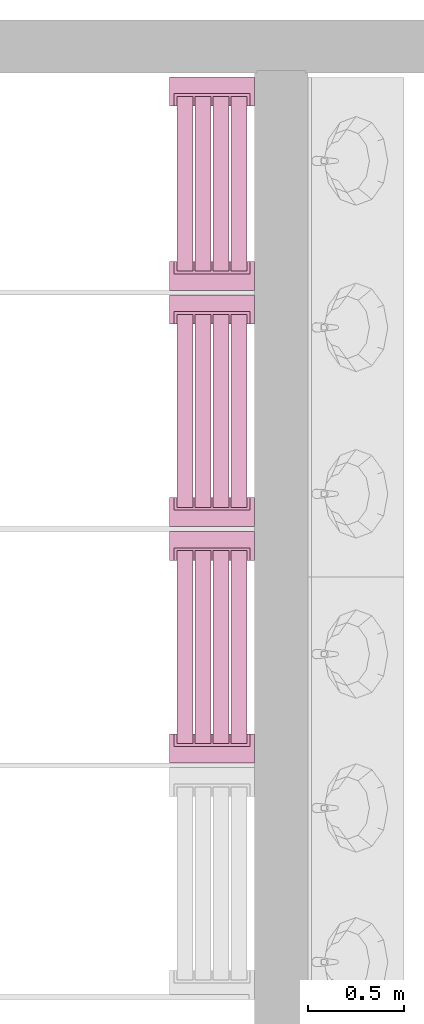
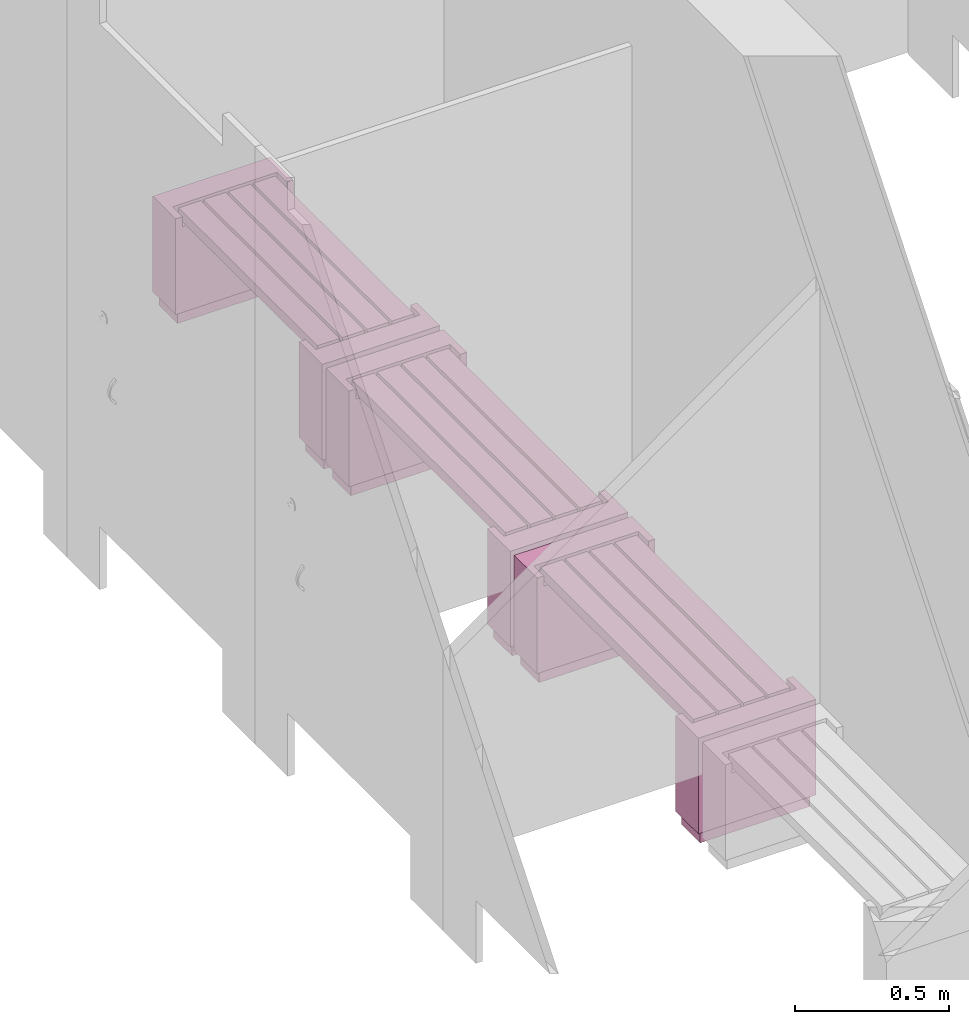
# One storey, part 20 of 22: 3 furnishings.
"""IFC2X3 building model written with IfcOpenShell, lengths in millimetres."""

from ifc_helpers import new_model, entity, si_unit, converted_unit, derived_unit, direction, frame, frame_2d, origin, origin_2d_with_axis, place, context, subcontext, project, spatial, polyline, rectangle, outline, extrude, source, transform, mapped, material, material_list, type_object, type_shapes, element, save


model = new_model("IFC2X3")

# Units and contexts
model_context = context("Model", 3, precision=0.01, world=origin(), true_north=direction((6.12303176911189e-17, 1.0)))
body_context = subcontext(model_context, "Body", "Model", "MODEL_VIEW")
ifc_project = project(units=[si_unit("LENGTHUNIT", "METRE", prefix="MILLI"), si_unit("AREAUNIT", "SQUARE_METRE"), si_unit("VOLUMEUNIT", "CUBIC_METRE"), converted_unit("PLANEANGLEUNIT", "DEGREE", entity("IfcRatioMeasure", 0.0174532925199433), si_unit("PLANEANGLEUNIT", "RADIAN"), dimensions=[0, 0, 0, 0, 0, 0, 0]), si_unit("MASSUNIT", "GRAM", prefix="KILO"), derived_unit("MASSDENSITYUNIT", [(si_unit("MASSUNIT", "GRAM", prefix="KILO"), 1), (si_unit("LENGTHUNIT", "METRE"), -3)]), si_unit("TIMEUNIT", "SECOND"), si_unit("FREQUENCYUNIT", "HERTZ"), si_unit("THERMODYNAMICTEMPERATUREUNIT", "DEGREE_CELSIUS"), derived_unit("THERMALTRANSMITTANCEUNIT", [(si_unit("MASSUNIT", "GRAM", prefix="KILO"), 1), (si_unit("THERMODYNAMICTEMPERATUREUNIT", "KELVIN"), -1), (si_unit("TIMEUNIT", "SECOND"), -3)]), derived_unit("VOLUMETRICFLOWRATEUNIT", [(si_unit("LENGTHUNIT", "METRE"), 3), (si_unit("TIMEUNIT", "SECOND"), -1)]), si_unit("ELECTRICCURRENTUNIT", "AMPERE"), si_unit("ELECTRICVOLTAGEUNIT", "VOLT"), si_unit("POWERUNIT", "WATT"), si_unit("FORCEUNIT", "NEWTON", prefix="KILO"), si_unit("ILLUMINANCEUNIT", "LUX"), si_unit("LUMINOUSFLUXUNIT", "LUMEN"), si_unit("LUMINOUSINTENSITYUNIT", "CANDELA"), derived_unit("USERDEFINED", [(si_unit("MASSUNIT", "GRAM", prefix="KILO"), -1), (si_unit("LENGTHUNIT", "METRE"), -2), (si_unit("TIMEUNIT", "SECOND"), 3), (si_unit("LUMINOUSFLUXUNIT", "LUMEN"), 1)]), derived_unit("LINEARVELOCITYUNIT", [(si_unit("LENGTHUNIT", "METRE"), 1), (si_unit("TIMEUNIT", "SECOND"), -1)]), si_unit("PRESSUREUNIT", "PASCAL"), derived_unit("USERDEFINED", [(si_unit("LENGTHUNIT", "METRE"), -2), (si_unit("MASSUNIT", "GRAM", prefix="KILO"), 1), (si_unit("TIMEUNIT", "SECOND"), -2)])], contexts=[model_context])

# Site, building, storey
site_placement = place(None, origin())
site = spatial("IfcSite", under=ifc_project, at=site_placement, Name="Default", CompositionType="ELEMENT")
building_placement = place(site_placement, origin())
building = spatial("IfcBuilding", under=site, at=building_placement, CompositionType="ELEMENT")
storey_placement = place(building_placement, frame((0.0, 0.0, -3000.0)))
storey = spatial("IfcBuildingStorey", under=building, at=storey_placement, Name="-2. Story", CompositionType="ELEMENT", Elevation=-3000.0)

# Furnishings
ifc_material_1 = material(Name="Wood - Pine Grained Horizontal")
ifc_material_2 = material(Name="Paint - Titanium White")
ifc_material_list_1 = material_list([ifc_material_1, ifc_material_2])
ifc_material_list_2 = material_list([ifc_material_1, ifc_material_2])
furniture_type_1 = type_object("IfcFurnitureType", Name="FU - 011", material=ifc_material_list_2)
shared_shape_1 = source(origin(), body_context, "Body", "SweptSolid", [
    extrude(rectangle(XDim=83.1575481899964, YDim=999.999999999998, at=frame_2d((-8.66506866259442e-12, -8.66862137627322e-12), x_axis=(1.0, 0.0))), frame((111329.651806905, 88753.9483369, -2510.0), z_axis=(0.0, 0.0, 1.0), x_axis=(-1.0, 0.0, 0.0)), (0.0, 0.0, 1.0), 40.0000000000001),
    extrude(rectangle(XDim=83.1575481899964, YDim=999.999999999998, at=frame_2d((8.66506866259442e-12, -8.66862137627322e-12), x_axis=(1.0, 0.0))), frame((111236.494258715, 88753.9483369, -2510.0), z_axis=(0.0, 0.0, 1.0), x_axis=(-1.0, 0.0, 0.0)), (0.0, 0.0, 1.0), 40.0000000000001),
    extrude(rectangle(XDim=83.1575481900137, YDim=999.999999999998, at=frame_2d((0.0, -8.66862137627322e-12), x_axis=(1.0, 0.0))), frame((111143.336710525, 88753.9483369, -2510.0), z_axis=(0.0, 0.0, 1.0), x_axis=(-1.0, 0.0, 0.0)), (0.0, 0.0, 1.0), 40.0000000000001),
    extrude(rectangle(XDim=83.1575481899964, YDim=999.999999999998, at=frame_2d((-8.66506866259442e-12, -8.66862137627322e-12), x_axis=(1.0, 0.0))), frame((111050.179162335, 88753.9483369, -2510.0), z_axis=(0.0, 0.0, 1.0), x_axis=(-1.0, 0.0, 0.0)), (0.0, 0.0, 1.0), 40.0000000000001),
    extrude(outline(polyline([(-53.7500000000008, -221.315096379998), (96.2499999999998, -221.315096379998), (96.2499999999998, 221.315096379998), (-53.7500000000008, 221.315096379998), (-53.7500000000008, 196.315096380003), (11.2499999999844, 196.315096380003), (11.2499999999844, -196.315096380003), (-53.7500000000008, -196.315096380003), (-53.7500000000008, -221.315096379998)])), frame((111189.91548462, 88250.1983369, -2510.0), z_axis=(0.0, 0.0, 1.0), x_axis=(0.0, -1.0, 0.0)), (0.0, 0.0, 1.0), 40.0000000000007),
    extrude(rectangle(XDim=150.000000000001, YDim=442.630192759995, at=origin_2d_with_axis()), frame((111189.91548462, 88228.9483369, -2850.0), z_axis=(0.0, 0.0, 1.0), x_axis=(0.0, -1.0, 0.0)), (0.0, 0.0, 1.0), 340.0),
    extrude(rectangle(XDim=119.99999999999, YDim=412.630192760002, at=frame_2d((-8.66506866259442e-12, 0.0), x_axis=(1.0, 0.0))), frame((111189.91548462, 88228.9483369, -2900.0), z_axis=(0.0, 0.0, 1.0), x_axis=(0.0, -1.0, 0.0)), (0.0, 0.0, 1.0), 50.0),
    extrude(outline(polyline([(-221.315096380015, -96.2500000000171), (221.31509637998, -96.2500000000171), (221.31509637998, 53.7499999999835), (196.315096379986, 53.7499999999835), (196.315096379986, -11.2500000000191), (-196.315096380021, -11.2500000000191), (-196.315096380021, 53.7499999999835), (-221.315096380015, 53.7499999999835), (-221.315096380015, -96.2500000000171)])), frame((111189.91548462, 89257.6983369, -2510.0), z_axis=(0.0, 0.0, 1.0), x_axis=(-1.0, 0.0, 0.0)), (0.0, 0.0, 1.0), 40.0000000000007),
    extrude(rectangle(XDim=442.630192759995, YDim=150.000000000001, at=origin_2d_with_axis()), frame((111189.91548462, 89278.9483369, -2850.0), z_axis=(0.0, 0.0, 1.0), x_axis=(-1.0, 0.0, 0.0)), (0.0, 0.0, 1.0), 340.0),
    extrude(rectangle(XDim=412.630192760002, YDim=120.000000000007, at=origin_2d_with_axis()), frame((111189.91548462, 89278.9483369, -2900.0), z_axis=(0.0, 0.0, 1.0), x_axis=(-1.0, 0.0, 0.0)), (0.0, 0.0, 1.0), 50.0),
])
type_shapes(furniture_type_1, [shared_shape_1])
furnishing_1_placement = place(storey_placement, frame((0.0, 0.0, 3000.0)))
element("IfcFurnishingElement", 1, at=furnishing_1_placement, inside=storey, type_object=furniture_type_1, material=ifc_material_list_1, Name="FU - 011 1604114:FU - 011 1604114", ObjectType="FU - 011 1604114:FU - 011 1604114", context=body_context, shape_type="MappedRepresentation", body=[
    mapped(shared_shape_1, transform((0.0, 0.0, 0.0), scale=1.0)),
])
ifc_material_list_3 = material_list([ifc_material_1, ifc_material_2])
ifc_material_list_4 = material_list([ifc_material_1, ifc_material_2])
furniture_type_2 = type_object("IfcFurnitureType", Name="FU - 011", material=ifc_material_list_4)
shared_shape_2 = source(origin(), body_context, "Body", "SweptSolid", [
    extrude(rectangle(XDim=83.1575481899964, YDim=999.999999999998, at=frame_2d((-8.66506866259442e-12, -8.66862137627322e-12), x_axis=(1.0, 0.0))), frame((111329.651806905, 87528.9483369, -2510.0), z_axis=(0.0, 0.0, 1.0), x_axis=(-1.0, 0.0, 0.0)), (0.0, 0.0, 1.0), 40.0000000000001),
    extrude(rectangle(XDim=83.1575481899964, YDim=999.999999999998, at=frame_2d((8.66506866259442e-12, -8.66862137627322e-12), x_axis=(1.0, 0.0))), frame((111236.494258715, 87528.9483369, -2510.0), z_axis=(0.0, 0.0, 1.0), x_axis=(-1.0, 0.0, 0.0)), (0.0, 0.0, 1.0), 40.0000000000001),
    extrude(rectangle(XDim=83.1575481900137, YDim=999.999999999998, at=frame_2d((0.0, -8.66862137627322e-12), x_axis=(1.0, 0.0))), frame((111143.336710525, 87528.9483369, -2510.0), z_axis=(0.0, 0.0, 1.0), x_axis=(-1.0, 0.0, 0.0)), (0.0, 0.0, 1.0), 40.0000000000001),
    extrude(rectangle(XDim=83.1575481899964, YDim=999.999999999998, at=frame_2d((-8.66506866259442e-12, -8.66862137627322e-12), x_axis=(1.0, 0.0))), frame((111050.179162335, 87528.9483369, -2510.0), z_axis=(0.0, 0.0, 1.0), x_axis=(-1.0, 0.0, 0.0)), (0.0, 0.0, 1.0), 40.0000000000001),
    extrude(outline(polyline([(-53.7500000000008, -221.315096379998), (96.2499999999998, -221.315096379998), (96.2499999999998, 221.315096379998), (-53.7500000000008, 221.315096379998), (-53.7500000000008, 196.315096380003), (11.2499999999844, 196.315096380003), (11.2499999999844, -196.315096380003), (-53.7500000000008, -196.315096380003), (-53.7500000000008, -221.315096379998)])), frame((111189.91548462, 87025.1983369, -2510.0), z_axis=(0.0, 0.0, 1.0), x_axis=(0.0, -1.0, 0.0)), (0.0, 0.0, 1.0), 40.0000000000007),
    extrude(rectangle(XDim=150.000000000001, YDim=442.630192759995, at=origin_2d_with_axis()), frame((111189.91548462, 87003.9483369, -2850.0), z_axis=(0.0, 0.0, 1.0), x_axis=(0.0, -1.0, 0.0)), (0.0, 0.0, 1.0), 340.0),
    extrude(rectangle(XDim=119.99999999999, YDim=412.630192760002, at=frame_2d((8.66506866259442e-12, 0.0), x_axis=(1.0, 0.0))), frame((111189.91548462, 87003.9483369, -2900.0), z_axis=(0.0, 0.0, 1.0), x_axis=(0.0, -1.0, 0.0)), (0.0, 0.0, 1.0), 50.0),
    extrude(outline(polyline([(-221.315096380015, -96.2499999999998), (221.31509637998, -96.2499999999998), (221.31509637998, 53.7500000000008), (196.315096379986, 53.7500000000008), (196.315096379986, -11.2500000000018), (-196.315096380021, -11.2500000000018), (-196.315096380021, 53.7500000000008), (-221.315096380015, 53.7500000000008), (-221.315096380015, -96.2499999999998)])), frame((111189.91548462, 88032.6983369, -2510.0), z_axis=(0.0, 0.0, 1.0), x_axis=(-1.0, 0.0, 0.0)), (0.0, 0.0, 1.0), 40.0000000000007),
    extrude(rectangle(XDim=442.630192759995, YDim=150.000000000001, at=origin_2d_with_axis()), frame((111189.91548462, 88053.9483369, -2850.0), z_axis=(0.0, 0.0, 1.0), x_axis=(-1.0, 0.0, 0.0)), (0.0, 0.0, 1.0), 340.0),
    extrude(rectangle(XDim=412.630192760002, YDim=120.000000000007, at=origin_2d_with_axis()), frame((111189.91548462, 88053.9483369, -2900.0), z_axis=(0.0, 0.0, 1.0), x_axis=(-1.0, 0.0, 0.0)), (0.0, 0.0, 1.0), 50.0),
])
type_shapes(furniture_type_2, [shared_shape_2])
furnishing_2_placement = place(storey_placement, frame((0.0, 0.0, 3000.0)))
element("IfcFurnishingElement", 2, at=furnishing_2_placement, inside=storey, type_object=furniture_type_2, material=ifc_material_list_3, Name="FU - 011 1604801:FU - 011 1604801", ObjectType="FU - 011 1604801:FU - 011 1604801", context=body_context, shape_type="MappedRepresentation", body=[
    mapped(shared_shape_2, transform((0.0, 0.0, 0.0), scale=1.0)),
])
ifc_material_list_5 = material_list([ifc_material_1, ifc_material_2])
ifc_material_list_6 = material_list([ifc_material_1, ifc_material_2])
furniture_type_3 = type_object("IfcFurnitureType", Name="FU - 011", material=ifc_material_list_6)
shared_shape_3 = source(origin(), body_context, "Body", "SweptSolid", [
    extrude(rectangle(XDim=83.1575481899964, YDim=904.272366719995, at=frame_2d((-8.66506866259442e-12, -8.66862137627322e-12), x_axis=(1.0, 0.0))), frame((111329.651806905, 89931.08452024, -2510.0), z_axis=(0.0, 0.0, 1.0), x_axis=(-1.0, 0.0, 0.0)), (0.0, 0.0, 1.0), 40.0000000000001),
    extrude(rectangle(XDim=83.1575481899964, YDim=904.272366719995, at=frame_2d((8.66506866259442e-12, -8.66862137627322e-12), x_axis=(1.0, 0.0))), frame((111236.494258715, 89931.08452024, -2510.0), z_axis=(0.0, 0.0, 1.0), x_axis=(-1.0, 0.0, 0.0)), (0.0, 0.0, 1.0), 40.0000000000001),
    extrude(rectangle(XDim=83.1575481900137, YDim=904.272366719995, at=frame_2d((0.0, -8.66862137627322e-12), x_axis=(1.0, 0.0))), frame((111143.336710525, 89931.08452024, -2510.0), z_axis=(0.0, 0.0, 1.0), x_axis=(-1.0, 0.0, 0.0)), (0.0, 0.0, 1.0), 40.0000000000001),
    extrude(rectangle(XDim=83.1575481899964, YDim=904.272366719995, at=frame_2d((-8.66506866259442e-12, -8.66862137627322e-12), x_axis=(1.0, 0.0))), frame((111050.179162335, 89931.08452024, -2510.0), z_axis=(0.0, 0.0, 1.0), x_axis=(-1.0, 0.0, 0.0)), (0.0, 0.0, 1.0), 40.0000000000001),
    extrude(outline(polyline([(-53.7499999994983, -221.315096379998), (96.2499999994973, -221.315096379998), (96.2499999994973, 221.315096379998), (-53.7499999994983, 221.315096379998), (-53.7499999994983, 196.315096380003), (11.2499999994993, 196.315096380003), (11.2499999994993, -196.315096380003), (-53.7499999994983, -196.315096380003), (-53.7499999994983, -221.315096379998)])), frame((111189.91548462, 89475.1983368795, -2510.0), z_axis=(0.0, 0.0, 1.0), x_axis=(0.0, -1.0, 0.0)), (0.0, 0.0, 1.0), 40.0000000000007),
    extrude(rectangle(XDim=149.999999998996, YDim=442.630192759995, at=origin_2d_with_axis()), frame((111189.91548462, 89453.9483368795, -2850.0), z_axis=(0.0, 0.0, 1.0), x_axis=(0.0, -1.0, 0.0)), (0.0, 0.0, 1.0), 340.0),
    extrude(rectangle(XDim=119.999999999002, YDim=412.630192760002, at=origin_2d_with_axis()), frame((111189.91548462, 89453.9483368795, -2900.0), z_axis=(0.0, 0.0, 1.0), x_axis=(0.0, -1.0, 0.0)), (0.0, 0.0, 1.0), 50.0),
    extrude(outline(polyline([(-221.315096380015, -96.2500000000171), (221.31509637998, -96.2500000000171), (221.31509637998, 53.7499999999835), (196.315096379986, 53.7499999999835), (196.315096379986, -11.2500000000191), (-196.315096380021, -11.2500000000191), (-196.315096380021, 53.7499999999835), (-221.315096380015, 53.7499999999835), (-221.315096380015, -96.2500000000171)])), frame((111189.91548462, 90386.9707036, -2510.0), z_axis=(0.0, 0.0, 1.0), x_axis=(-1.0, 0.0, 0.0)), (0.0, 0.0, 1.0), 40.0000000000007),
    extrude(rectangle(XDim=442.630192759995, YDim=150.000000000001, at=origin_2d_with_axis()), frame((111189.91548462, 90408.2207036, -2850.0), z_axis=(0.0, 0.0, 1.0), x_axis=(-1.0, 0.0, 0.0)), (0.0, 0.0, 1.0), 340.0),
    extrude(rectangle(XDim=412.630192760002, YDim=119.99999999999, at=frame_2d((0.0, -8.66506866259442e-12), x_axis=(1.0, 0.0))), frame((111189.91548462, 90408.2207036, -2900.0), z_axis=(0.0, 0.0, 1.0), x_axis=(-1.0, 0.0, 0.0)), (0.0, 0.0, 1.0), 50.0),
])
type_shapes(furniture_type_3, [shared_shape_3])
furnishing_3_placement = place(storey_placement, frame((0.0, 0.0, 3000.0)))
element("IfcFurnishingElement", 3, at=furnishing_3_placement, inside=storey, type_object=furniture_type_3, material=ifc_material_list_5, Name="FU - 011 1621557:FU - 011 1621557", ObjectType="FU - 011 1621557:FU - 011 1621557", context=body_context, shape_type="MappedRepresentation", body=[
    mapped(shared_shape_3, transform((0.0, 0.0, 0.0), scale=1.0)),
])

save(model, "model.ifc")
